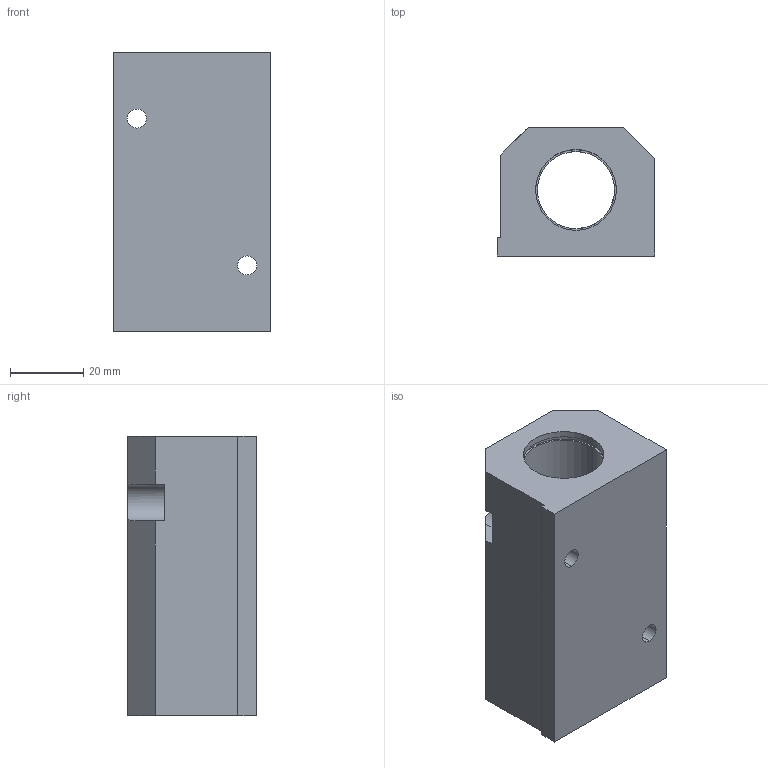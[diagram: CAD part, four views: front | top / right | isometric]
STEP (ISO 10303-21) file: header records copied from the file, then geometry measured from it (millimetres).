
FILE_DESCRIPTION (( 'STEP AP214' ), '1' );
FILE_NAME ('KTG85-12.step', '2020-03-04T13:24:57', ( '' ), ( '' ), 'SwSTEP 2.0', 'SolidWorks 2019', '' );
FILE_SCHEMA (( 'AUTOMOTIVE_DESIGN' ));
Length unit declared in the file: millimetre
Products named in the file (1): KTG85-12
Bounding box: 43 x 35 x 76 mm (x, y, z)
Volume: 75543.4 mm3; surface area: 19963.2 mm2
Topology: 1 solids, 1 shells, 51 faces, 125 edges, 82 vertices
Faces by surface type: cylinder 25, plane 24, cone 2
Entity records: 1704 total; most frequent: CARTESIAN_POINT 353, DIRECTION 268, ORIENTED_EDGE 250, EDGE_CURVE 125, AXIS2_PLACEMENT_3D 99, VERTEX_POINT 82, LINE 70, VECTOR 70
